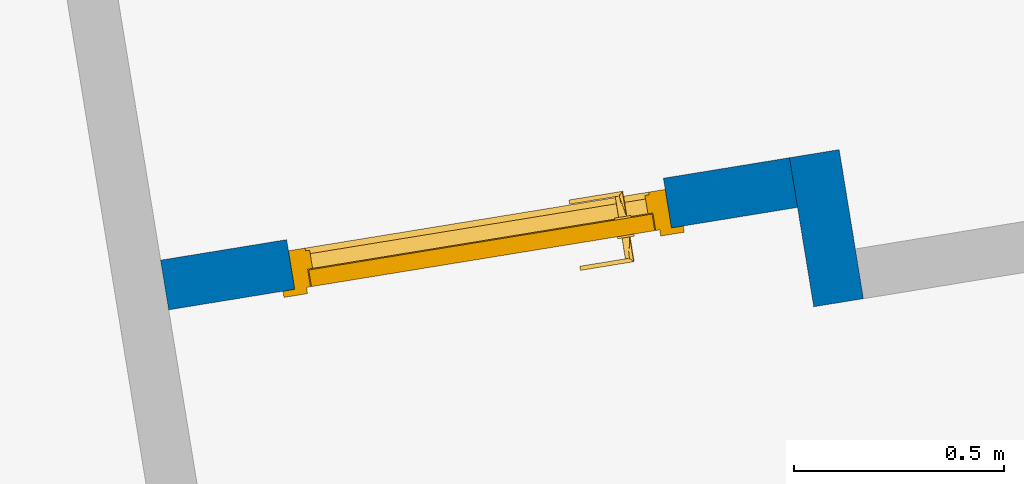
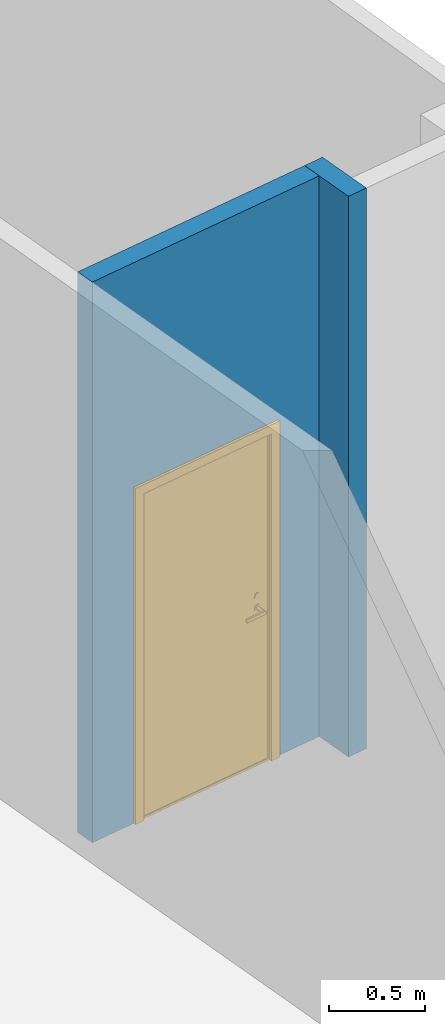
# One storey, part 12 of 18: 2 walls, 1 door, 1 opening.
"""IFC2X3 building model written with IfcOpenShell, lengths in millimetres."""

from ifc_helpers import new_model, entity, si_unit, converted_unit, derived_unit, direction, frame, frame_2d, origin, origin_with_axes, place, context, subcontext, project, spatial, polyline, rectangle, extrude, clip, bounded_halfspace, faceted_brep, source, transform, mapped, material, material_list, layer, layer_set, layer_usage, type_object, element, fill, save


model = new_model("IFC2X3")

# Units and contexts
model_context = context("Model", 3, precision=0.01, world=origin(), true_north=direction((6.12323399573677e-17, 1.0)))
plan_context = context("Plan", 3, precision=1e-05, world=origin_with_axes())
body_context = subcontext(model_context, "Body", "Model", "MODEL_VIEW")
ifc_project = project(units=[converted_unit("PLANEANGLEUNIT", "DEGREE", entity("IfcPositiveLengthMeasure", 0.0174532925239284), si_unit("PLANEANGLEUNIT", "RADIAN"), dimensions=[0, 0, 0, 0, 0, 0, 0]), si_unit("AREAUNIT", "SQUARE_METRE"), si_unit("LENGTHUNIT", "METRE", prefix="MILLI"), si_unit("MASSUNIT", "GRAM", prefix="KILO"), si_unit("POWERUNIT", "WATT"), si_unit("PRESSUREUNIT", "PASCAL", prefix="KILO"), si_unit("FORCEUNIT", "NEWTON", prefix="KILO"), si_unit("ELECTRICVOLTAGEUNIT", "VOLT"), si_unit("ELECTRICCURRENTUNIT", "AMPERE"), si_unit("THERMODYNAMICTEMPERATUREUNIT", "DEGREE_CELSIUS"), si_unit("TIMEUNIT", "SECOND"), si_unit("VOLUMEUNIT", "CUBIC_METRE"), derived_unit("LINEARVELOCITYUNIT", [(si_unit("LENGTHUNIT", "METRE"), 1), (si_unit("TIMEUNIT", "SECOND"), -1)]), derived_unit("VOLUMETRICFLOWRATEUNIT", [(si_unit("VOLUMEUNIT", "CUBIC_METRE"), 1), (si_unit("TIMEUNIT", "SECOND"), -1)]), derived_unit("THERMALTRANSMITTANCEUNIT", [(si_unit("POWERUNIT", "WATT"), 1), (si_unit("THERMODYNAMICTEMPERATUREUNIT", "KELVIN"), -1), (si_unit("AREAUNIT", "SQUARE_METRE"), -1)]), derived_unit("SOUNDPRESSUREUNIT", [(si_unit("PRESSUREUNIT", "PASCAL"), 1)])], contexts=[model_context, plan_context])

# Site, building, storey
site_placement = place(None, frame((-305029.896016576, -232111.759730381, 0.0), z_axis=(0.0, 0.0, 1.0), x_axis=(-0.160806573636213, 0.986985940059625, 0.0)))
site = spatial("IfcSite", under=ifc_project, at=site_placement, Name="Default", CompositionType="ELEMENT")
building_placement = place(site_placement, frame((0.0, 0.0, 0.0), z_axis=(0.0, 0.0, 1.0), x_axis=(1.0, -2.77555756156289e-17, 0.0)))
building = spatial("IfcBuilding", under=site, at=building_placement, Name="br001-a-200-1-0001", CompositionType="ELEMENT")
storey_placement = place(building_placement, frame((0.0, 0.0, 55500.0), z_axis=(0.0, 0.0, 1.0), x_axis=(1.0, -2.77555756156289e-17, 0.0)))
storey = spatial("IfcBuildingStorey", under=building, at=storey_placement, Name="H02-Nivå F-3,5 m", CompositionType="ELEMENT", Elevation=55500.0)

# Wall
ifc_material_1 = material(Name="_NSW Standard")
ifc_layer = layer(ifc_material_1, 120.0)
ifc_layer_set = layer_set([ifc_layer], Name="Basic Wall:A242 - Standard 120")
ifc_layer_usage_1 = layer_usage(ifc_layer_set, "AXIS2", "NEGATIVE", 60.0)
wall_type = type_object("IfcWallType", Name="Basic Wall:A242 - Standard 120", PredefinedType="STANDARD", material=ifc_layer_set)
wall_1_placement = place(storey_placement, frame((1178317.59858442, -733405.378367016, 0.0), z_axis=(0.0, 0.0, 1.0), x_axis=(1.0, -2.77555756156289e-17, 0.0)))
element("IfcWallStandardCase", 1, at=wall_1_placement, inside=storey, type_object=wall_type, material=ifc_layer_usage_1, Name="Basic Wall:A242 - Standard 120", ObjectType="Basic Wall:A242 - Standard 120", context=body_context, shape_type="Clipping", body=[
    clip(extrude(rectangle(XDim=360.000000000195, YDim=120.000000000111, at=frame_2d((180.000000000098, -2.41797692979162e-11), x_axis=(-1.0, 0.0))), origin(), (0.0, 0.0, 1.0), 3550.00000000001), bounded_halfspace(frame((0.0, -60.0, 3550.0), z_axis=(0.0, 0.0, -1.0), x_axis=(1.0, 0.0, 0.0)), True, frame((0.0, -60.0, 3550.0)), polyline([(0.0, 0.0), (120.0, 0.0), (360.0, 0.0), (360.0, 120.0), (240.0, 120.0), (0.0, 120.0), (0.0, 0.0)]))),
])

# Wall, opening, door
ifc_layer_usage_2 = layer_usage(ifc_layer_set, "AXIS2", "NEGATIVE", 60.0)
wall_2_placement = place(storey_placement, frame((1178617.59858442, -733345.378367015, 0.0), z_axis=(0.0, 0.0, 1.0), x_axis=(2.77555756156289e-17, 1.0, 0.0)))
wall_2 = element("IfcWallStandardCase", 2, at=wall_2_placement, inside=storey, type_object=wall_type, material=ifc_layer_usage_2, Name="Basic Wall:A242 - Standard 120", ObjectType="Basic Wall:A242 - Standard 120", context=body_context, shape_type="Clipping", body=[
    clip(extrude(rectangle(XDim=1518.99999999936, YDim=120.000000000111, at=frame_2d((759.49999999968, 1.64490643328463e-12), x_axis=(-1.0, 0.0))), origin(), (0.0, 0.0, 1.0), 3550.00000000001), bounded_halfspace(frame((0.0, -60.0, 3550.0), z_axis=(0.0, 0.0, -1.0), x_axis=(0.0, -1.0, 0.0)), True, frame((0.0, -60.0, 3550.0)), polyline([(0.0, 0.0), (1519.0, 0.0), (1519.0, 120.0), (0.0, 120.0), (0.0, 0.0)]))),
])
opening_placement = place(wall_2_placement, frame((304.499999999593, -60.0, 0.0), z_axis=(0.0, 0.0, 1.0), x_axis=(1.0, -2.77555756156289e-17, 0.0)))
opening = element("IfcOpeningElement", 3, at=opening_placement, cuts=wall_2, Name="NSW Innvendig slagdør, enkel:9M x 21M:1", ObjectType="Opening", context=body_context, shape_type="SweptSolid", body=[
    extrude(rectangle(XDim=2100.00000000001, YDim=910.0, at=frame_2d((1050.0, 455.000000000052), x_axis=(1.0, 0.0))), frame((0.0, 0.0, 0.0), z_axis=(0.0, 1.0, 0.0), x_axis=(0.0, 0.0, 1.0)), (0.0, 0.0, 1.0), 120.0),
])
ifc_material_2 = material(Name="<Unnamed>")
ifc_material_3 = material(Name="_NSW Dør - dørblad, hvit")
ifc_material_4 = material(Name="_NSW Dør - terskel, tre")
ifc_material_5 = material(Name="_NSW Dør - listverk, hvit")
ifc_material_list = material_list([ifc_material_2, ifc_material_3, ifc_material_4, ifc_material_5])
door_style = type_object("IfcDoorStyle", Name="NSW Innvendig slagdør, enkel:9M x 21M", ConstructionType="NOTDEFINED", OperationType="NOTDEFINED", ParameterTakesPrecedence=False, Sizeable=False, material=ifc_material_list)
shared_shape = source(origin(), body_context, "Body", "Brep", [
    faceted_brep([(-122.179491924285, 75.0, 1065.50000000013), (-120.181483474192, 75.0, 1070.32361909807), (-119.499999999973, 75.0, 1075.50000000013), (-120.181483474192, 75.0, 1080.67638090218), (-122.179491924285, 75.0, 1085.50000000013), (-125.357864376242, 75.0, 1089.64213562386), (-129.499999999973, 75.0, 1092.82050807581), (-134.323619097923, 75.0, 1094.81851652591), (-139.499999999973, 75.0, 1095.50000000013), (-144.676380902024, 75.0, 1094.81851652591), (-149.499999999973, 75.0, 1092.82050807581), (-153.642135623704, 75.0, 1089.64213562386), (-156.820508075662, 75.0, 1085.50000000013), (-158.818516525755, 75.0, 1080.67638090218), (-159.499999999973, 75.0, 1075.50000000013), (-158.818516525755, 75.0, 1070.32361909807), (-156.820508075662, 75.0, 1065.50000000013), (-153.642135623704, 75.0, 1061.35786437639), (-149.499999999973, 75.0, 1058.17949192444), (-144.676380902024, 75.0, 1056.18148347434), (-139.499999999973, 75.0, 1055.50000000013), (-134.323619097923, 75.0, 1056.18148347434), (-129.499999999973, 75.0, 1058.17949192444), (-125.357864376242, 75.0, 1061.35786437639), (-139.499999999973, 80.0, 1095.50000000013), (-134.323619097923, 80.0, 1094.81851652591), (-129.499999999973, 80.0, 1092.82050807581), (-125.357864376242, 80.0, 1089.64213562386), (-122.179491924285, 80.0, 1085.50000000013), (-120.181483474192, 80.0, 1080.67638090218), (-119.499999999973, 80.0, 1075.50000000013), (-120.181483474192, 80.0, 1070.32361909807), (-122.179491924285, 80.0, 1065.50000000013), (-125.357864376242, 80.0, 1061.35786437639), (-129.499999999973, 80.0, 1058.17949192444), (-134.323619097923, 80.0, 1056.18148347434), (-139.499999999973, 80.0, 1055.50000000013), (-144.676380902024, 80.0, 1056.18148347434), (-149.499999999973, 80.0, 1058.17949192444), (-153.642135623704, 80.0, 1061.35786437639), (-156.820508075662, 80.0, 1065.50000000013), (-158.818516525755, 80.0, 1070.32361909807), (-159.499999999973, 80.0, 1075.50000000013), (-158.818516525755, 80.0, 1080.67638090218), (-156.820508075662, 80.0, 1085.50000000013), (-153.642135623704, 80.0, 1089.64213562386), (-149.499999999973, 80.0, 1092.82050807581), (-144.676380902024, 80.0, 1094.81851652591)], [[[0, 1, 2, 3, 4, 5, 6, 7, 8, 9, 10, 11, 12, 13, 14, 15, 16, 17, 18, 19, 20, 21, 22, 23]], [[24, 25, 26, 27, 28, 29, 30, 31, 32, 33, 34, 35, 36, 37, 38, 39, 40, 41, 42, 43, 44, 45, 46, 47]], [[41, 15, 14, 42]], [[40, 16, 15, 41]], [[18, 17, 39, 38]], [[40, 39, 17, 16]], [[19, 18, 38, 37]], [[20, 19, 37, 36]], [[35, 21, 20, 36]], [[34, 22, 21, 35]], [[0, 23, 33, 32]], [[34, 33, 23, 22]], [[1, 0, 32, 31]], [[2, 1, 31, 30]], [[29, 3, 2, 30]], [[28, 4, 3, 29]], [[6, 5, 27, 26]], [[28, 27, 5, 4]], [[7, 6, 26, 25]], [[8, 7, 25, 24]], [[47, 9, 8, 24]], [[46, 10, 9, 47]], [[12, 11, 45, 44]], [[46, 45, 11, 10]], [[13, 12, 44, 43]], [[14, 13, 43, 42]]]),
    faceted_brep([(-139.499999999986, 15.0, 990.500000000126), (-19.499999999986, 15.0, 990.500000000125), (-19.499999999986, 15.0, 1010.50000000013), (-139.499999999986, 15.0, 1010.50000000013), (-142.088190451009, 15.0, 1010.15925826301), (-144.499999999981, 15.0, 1009.16025403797), (-146.571067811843, 15.0, 1007.57106781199), (-148.16025403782, 15.0, 1005.50000000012), (-149.159258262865, 15.0, 1003.08819045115), (-149.499999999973, 15.0, 1000.50000000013), (-149.159258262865, 15.0, 997.911809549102), (-148.16025403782, 15.0, 995.500000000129), (-146.571067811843, 15.0, 993.428932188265), (-144.499999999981, 15.0, 991.839745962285), (-142.088190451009, 15.0, 990.840741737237), (-136.911809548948, 25.0, 990.840741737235), (-134.499999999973, 25.0, 991.839745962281), (-132.428932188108, 25.0, 993.42893218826), (-130.839745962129, 25.0, 995.500000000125), (-129.840741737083, 25.0, 997.9118095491), (-129.499999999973, 25.0, 1000.50000000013), (-129.840741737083, 25.0, 1003.08819045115), (-130.839745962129, 25.0, 1005.50000000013), (-132.428932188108, 25.0, 1007.57106781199), (-134.499999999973, 25.0, 1009.16025403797), (-136.911809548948, 25.0, 1010.15925826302), (-139.499999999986, 25.0, 1010.50000000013), (-19.499999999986, 25.0, 1010.50000000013), (-19.499999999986, 25.0, 990.500000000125), (-139.499999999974, 25.0, 990.500000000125), (-139.499999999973, 75.0, 1010.50000000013), (-136.911809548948, 75.0, 1010.15925826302), (-134.499999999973, 75.0, 1009.16025403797), (-132.428932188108, 75.0, 1007.57106781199), (-130.839745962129, 75.0, 1005.50000000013), (-129.840741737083, 75.0, 1003.08819045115), (-129.499999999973, 75.0, 1000.50000000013), (-129.840741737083, 75.0, 997.9118095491), (-130.839745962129, 75.0, 995.500000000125), (-132.428932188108, 75.0, 993.42893218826), (-134.499999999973, 75.0, 991.839745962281), (-136.911809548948, 75.0, 990.840741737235), (-139.499999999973, 75.0, 990.500000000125), (-142.088190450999, 75.0, 990.840741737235), (-144.499999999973, 75.0, 991.839745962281), (-146.571067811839, 75.0, 993.42893218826), (-148.160254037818, 75.0, 995.500000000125), (-149.159258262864, 75.0, 997.9118095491), (-149.499999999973, 75.0, 1000.50000000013), (-149.159258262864, 75.0, 1003.08819045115), (-148.160254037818, 75.0, 1005.50000000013), (-146.571067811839, 75.0, 1007.57106781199), (-144.499999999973, 75.0, 1009.16025403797), (-142.088190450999, 75.0, 1010.15925826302)], [[[0, 1, 2, 3, 4, 5, 6, 7, 8, 9, 10, 11, 12, 13, 14]], [[15, 16, 17, 18, 19, 20, 21, 22, 23, 24, 25, 26, 27, 28, 29]], [[1, 0, 29, 28]], [[2, 1, 28, 27]], [[3, 2, 27, 26]], [[30, 31, 32, 33, 34, 35, 36, 37, 38, 39, 40, 41, 42, 43, 44, 45, 46, 47, 48, 49, 50, 51, 52, 53]], [[47, 10, 9, 48]], [[46, 11, 10, 47]], [[46, 45, 29]], [[29, 11, 46]], [[45, 44, 29]], [[29, 14, 13]], [[13, 12, 29]], [[29, 12, 11]], [[29, 0, 14]], [[42, 29, 43]], [[29, 44, 43]], [[41, 15, 29, 42]], [[40, 16, 15, 41]], [[18, 17, 39, 38]], [[38, 37, 19, 18]], [[40, 39, 17, 16]], [[36, 20, 19, 37]], [[35, 21, 20, 36]], [[34, 22, 21, 35]], [[24, 23, 33, 32]], [[34, 33, 23, 22]], [[25, 24, 32, 31]], [[25, 31, 30, 26]], [[53, 26, 30]], [[26, 4, 3]], [[52, 26, 53]], [[26, 51, 50]], [[50, 49, 8, 7]], [[52, 51, 26]], [[48, 9, 8, 49]], [[26, 5, 4]], [[5, 26, 6]], [[7, 6, 26]], [[7, 26, 50]]]),
    faceted_brep([(-129.499999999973, 75.0, 983.179491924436), (-125.357864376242, 75.0, 986.357864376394), (-122.179491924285, 75.0, 990.500000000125), (-120.181483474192, 75.0, 995.323619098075), (-119.499999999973, 75.0, 1000.50000000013), (-120.181483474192, 75.0, 1005.67638090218), (-122.179491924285, 75.0, 1010.50000000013), (-125.357864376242, 75.0, 1014.64213562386), (-129.499999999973, 75.0, 1017.82050807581), (-134.323619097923, 75.0, 1019.81851652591), (-139.499999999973, 75.0, 1020.50000000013), (-144.676380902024, 75.0, 1019.81851652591), (-149.499999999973, 75.0, 1017.82050807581), (-153.642135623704, 75.0, 1014.64213562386), (-156.820508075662, 75.0, 1010.50000000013), (-158.818516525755, 75.0, 1005.67638090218), (-159.499999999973, 75.0, 1000.50000000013), (-158.818516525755, 75.0, 995.323619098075), (-156.820508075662, 75.0, 990.500000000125), (-153.642135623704, 75.0, 986.357864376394), (-149.499999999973, 75.0, 983.179491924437), (-144.676380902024, 75.0, 981.181483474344), (-139.499999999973, 75.0, 980.500000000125), (-134.323619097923, 75.0, 981.181483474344), (-139.499999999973, 80.0, 1020.50000000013), (-134.323619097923, 80.0, 1019.81851652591), (-129.499999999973, 80.0, 1017.82050807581), (-125.357864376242, 80.0, 1014.64213562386), (-122.179491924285, 80.0, 1010.50000000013), (-120.181483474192, 80.0, 1005.67638090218), (-119.499999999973, 80.0, 1000.50000000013), (-120.181483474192, 80.0, 995.323619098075), (-122.179491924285, 80.0, 990.500000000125), (-125.357864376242, 80.0, 986.357864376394), (-129.499999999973, 80.0, 983.179491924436), (-134.323619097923, 80.0, 981.181483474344), (-139.499999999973, 80.0, 980.500000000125), (-144.676380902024, 80.0, 981.181483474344), (-149.499999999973, 80.0, 983.179491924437), (-153.642135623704, 80.0, 986.357864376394), (-156.820508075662, 80.0, 990.500000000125), (-158.818516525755, 80.0, 995.323619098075), (-159.499999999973, 80.0, 1000.50000000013), (-158.818516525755, 80.0, 1005.67638090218), (-156.820508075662, 80.0, 1010.50000000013), (-153.642135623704, 80.0, 1014.64213562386), (-149.499999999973, 80.0, 1017.82050807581), (-144.676380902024, 80.0, 1019.81851652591)], [[[0, 1, 2, 3, 4, 5, 6, 7, 8, 9, 10, 11, 12, 13, 14, 15, 16, 17, 18, 19, 20, 21, 22, 23]], [[24, 25, 26, 27, 28, 29, 30, 31, 32, 33, 34, 35, 36, 37, 38, 39, 40, 41, 42, 43, 44, 45, 46, 47]], [[41, 17, 16, 42]], [[40, 18, 17, 41]], [[20, 19, 39, 38]], [[40, 39, 19, 18]], [[21, 20, 38, 37]], [[22, 21, 37, 36]], [[35, 23, 22, 36]], [[34, 0, 23, 35]], [[2, 1, 33, 32]], [[34, 33, 1, 0]], [[3, 2, 32, 31]], [[4, 3, 31, 30]], [[29, 5, 4, 30]], [[28, 6, 5, 29]], [[8, 7, 27, 26]], [[28, 27, 7, 6]], [[9, 8, 26, 25]], [[10, 9, 25, 24]], [[47, 11, 10, 24]], [[46, 12, 11, 47]], [[14, 13, 45, 44]], [[46, 45, 13, 12]], [[15, 14, 44, 43]], [[16, 15, 43, 42]]]),
    faceted_brep([(-129.499999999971, 125.0, 1058.17949192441), (-134.323619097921, 125.0, 1056.18148347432), (-139.499999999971, 125.0, 1055.5000000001), (-144.676380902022, 125.0, 1056.18148347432), (-149.499999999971, 125.0, 1058.17949192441), (-153.642135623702, 125.0, 1061.35786437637), (-156.82050807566, 125.0, 1065.5000000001), (-158.818516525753, 125.0, 1070.32361909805), (-159.499999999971, 125.0, 1075.5000000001), (-158.818516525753, 125.0, 1080.67638090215), (-156.82050807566, 125.0, 1085.5000000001), (-153.642135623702, 125.0, 1089.64213562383), (-149.499999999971, 125.0, 1092.82050807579), (-144.676380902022, 125.0, 1094.81851652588), (-139.499999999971, 125.0, 1095.5000000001), (-134.323619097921, 125.0, 1094.81851652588), (-129.499999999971, 125.0, 1092.82050807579), (-125.35786437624, 125.0, 1089.64213562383), (-122.179491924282, 125.0, 1085.5000000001), (-120.18148347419, 125.0, 1080.67638090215), (-119.499999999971, 125.0, 1075.5000000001), (-120.18148347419, 125.0, 1070.32361909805), (-122.179491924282, 125.0, 1065.5000000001), (-125.35786437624, 125.0, 1061.35786437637), (-129.499999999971, 120.0, 1092.82050807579), (-134.323619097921, 120.0, 1094.81851652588), (-139.499999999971, 120.0, 1095.5000000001), (-144.676380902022, 120.0, 1094.81851652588), (-149.499999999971, 120.0, 1092.82050807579), (-153.642135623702, 120.0, 1089.64213562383), (-156.82050807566, 120.0, 1085.5000000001), (-158.818516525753, 120.0, 1080.67638090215), (-159.499999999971, 120.0, 1075.5000000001), (-158.818516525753, 120.0, 1070.32361909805), (-156.82050807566, 120.0, 1065.5000000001), (-153.642135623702, 120.0, 1061.35786437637), (-149.499999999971, 120.0, 1058.17949192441), (-144.676380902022, 120.0, 1056.18148347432), (-139.499999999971, 120.0, 1055.5000000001), (-134.323619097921, 120.0, 1056.18148347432), (-129.499999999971, 120.0, 1058.17949192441), (-125.35786437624, 120.0, 1061.35786437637), (-122.179491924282, 120.0, 1065.5000000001), (-120.18148347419, 120.0, 1070.32361909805), (-119.499999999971, 120.0, 1075.5000000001), (-120.18148347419, 120.0, 1080.67638090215), (-122.179491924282, 120.0, 1085.5000000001), (-125.35786437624, 120.0, 1089.64213562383)], [[[0, 1, 2, 3, 4, 5, 6, 7, 8, 9, 10, 11, 12, 13, 14, 15, 16, 17, 18, 19, 20, 21, 22, 23]], [[24, 25, 26, 27, 28, 29, 30, 31, 32, 33, 34, 35, 36, 37, 38, 39, 40, 41, 42, 43, 44, 45, 46, 47]], [[32, 8, 7, 33]], [[33, 7, 6, 34]], [[36, 35, 5, 4]], [[5, 35, 34, 6]], [[37, 36, 4, 3]], [[37, 3, 2, 38]], [[38, 2, 1, 39]], [[39, 1, 0, 40]], [[42, 41, 23, 22]], [[23, 41, 40, 0]], [[43, 42, 22, 21]], [[43, 21, 20, 44]], [[44, 20, 19, 45]], [[45, 19, 18, 46]], [[24, 47, 17, 16]], [[17, 47, 46, 18]], [[25, 24, 16, 15]], [[25, 15, 14, 26]], [[26, 14, 13, 27]], [[27, 13, 12, 28]], [[30, 29, 11, 10]], [[11, 29, 28, 12]], [[31, 30, 10, 9]], [[31, 9, 8, 32]]]),
    faceted_brep([(-146.571067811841, 185.0, 1007.57106781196), (-144.499999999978, 185.0, 1009.16025403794), (-142.088190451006, 185.0, 1010.15925826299), (-139.499999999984, 185.0, 1010.5000000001), (-19.4999999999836, 185.0, 1010.5000000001), (-19.4999999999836, 185.0, 990.500000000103), (-139.499999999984, 185.0, 990.500000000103), (-142.088190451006, 185.0, 990.840741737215), (-144.499999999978, 185.0, 991.839745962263), (-146.571067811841, 185.0, 993.428932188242), (-148.160254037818, 185.0, 995.500000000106), (-149.159258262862, 185.0, 997.91180954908), (-149.499999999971, 185.0, 1000.5000000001), (-149.159258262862, 185.0, 1003.08819045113), (-148.160254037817, 185.0, 1005.5000000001), (-19.4999999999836, 175.0, 990.500000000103), (-19.4999999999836, 175.0, 1010.5000000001), (-139.499999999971, 175.0, 1010.5000000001), (-136.911809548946, 175.0, 1010.15925826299), (-134.499999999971, 175.0, 1009.16025403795), (-132.428932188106, 175.0, 1007.57106781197), (-130.839745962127, 175.0, 1005.5000000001), (-129.84074173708, 175.0, 1003.08819045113), (-129.499999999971, 175.0, 1000.5000000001), (-129.84074173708, 175.0, 997.911809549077), (-130.839745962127, 175.0, 995.500000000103), (-132.428932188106, 175.0, 993.428932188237), (-134.499999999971, 175.0, 991.839745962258), (-136.911809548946, 175.0, 990.840741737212), (-139.499999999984, 175.0, 990.500000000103), (-134.499999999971, 125.0, 1009.16025403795), (-136.911809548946, 125.0, 1010.15925826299), (-139.499999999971, 125.0, 1010.5000000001), (-142.088190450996, 125.0, 1010.15925826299), (-144.499999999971, 125.0, 1009.16025403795), (-146.571067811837, 125.0, 1007.57106781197), (-148.160254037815, 125.0, 1005.5000000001), (-149.159258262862, 125.0, 1003.08819045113), (-149.499999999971, 125.0, 1000.5000000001), (-149.159258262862, 125.0, 997.911809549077), (-148.160254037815, 125.0, 995.500000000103), (-146.571067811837, 125.0, 993.428932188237), (-144.499999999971, 125.0, 991.839745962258), (-142.088190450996, 125.0, 990.840741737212), (-139.499999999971, 125.0, 990.500000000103), (-136.911809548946, 125.0, 990.840741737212), (-134.499999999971, 125.0, 991.839745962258), (-132.428932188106, 125.0, 993.428932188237), (-130.839745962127, 125.0, 995.500000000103), (-129.84074173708, 125.0, 997.911809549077), (-129.499999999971, 125.0, 1000.5000000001), (-129.84074173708, 125.0, 1003.08819045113), (-130.839745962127, 125.0, 1005.5000000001), (-132.428932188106, 125.0, 1007.57106781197)], [[[0, 1, 2, 3, 4, 5, 6, 7, 8, 9, 10, 11, 12, 13, 14]], [[15, 16, 17, 18, 19, 20, 21, 22, 23, 24, 25, 26, 27, 28, 29]], [[29, 6, 5, 15]], [[15, 5, 4, 16]], [[16, 4, 3, 17]], [[30, 31, 32, 33, 34, 35, 36, 37, 38, 39, 40, 41, 42, 43, 44, 45, 46, 47, 48, 49, 50, 51, 52, 53]], [[38, 12, 11, 39]], [[39, 11, 10, 40]], [[29, 41, 40]], [[40, 10, 29]], [[29, 42, 41]], [[8, 7, 29]], [[29, 9, 8]], [[10, 9, 29]], [[7, 6, 29]], [[43, 29, 44]], [[43, 42, 29]], [[44, 29, 28, 45]], [[45, 28, 27, 46]], [[48, 47, 26, 25]], [[24, 49, 48, 25]], [[26, 47, 46, 27]], [[49, 24, 23, 50]], [[50, 23, 22, 51]], [[51, 22, 21, 52]], [[30, 53, 20, 19]], [[20, 53, 52, 21]], [[31, 30, 19, 18]], [[17, 32, 31, 18]], [[32, 17, 33]], [[3, 2, 17]], [[33, 17, 34]], [[36, 35, 17]], [[13, 37, 36, 14]], [[17, 35, 34]], [[37, 13, 12, 38]], [[2, 1, 17]], [[0, 17, 1]], [[17, 0, 14]], [[36, 17, 14]]]),
    faceted_brep([(-134.323619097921, 125.0, 981.181483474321), (-139.499999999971, 125.0, 980.500000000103), (-144.676380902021, 125.0, 981.181483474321), (-149.499999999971, 125.0, 983.179491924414), (-153.642135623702, 125.0, 986.357864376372), (-156.82050807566, 125.0, 990.500000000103), (-158.818516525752, 125.0, 995.323619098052), (-159.499999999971, 125.0, 1000.5000000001), (-158.818516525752, 125.0, 1005.67638090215), (-156.82050807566, 125.0, 1010.5000000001), (-153.642135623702, 125.0, 1014.64213562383), (-149.499999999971, 125.0, 1017.82050807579), (-144.676380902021, 125.0, 1019.81851652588), (-139.499999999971, 125.0, 1020.5000000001), (-134.323619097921, 125.0, 1019.81851652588), (-129.499999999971, 125.0, 1017.82050807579), (-125.35786437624, 125.0, 1014.64213562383), (-122.179491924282, 125.0, 1010.5000000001), (-120.18148347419, 125.0, 1005.67638090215), (-119.499999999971, 125.0, 1000.5000000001), (-120.18148347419, 125.0, 995.323619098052), (-122.179491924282, 125.0, 990.500000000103), (-125.35786437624, 125.0, 986.357864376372), (-129.499999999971, 125.0, 983.179491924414), (-129.499999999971, 120.0, 1017.82050807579), (-134.323619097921, 120.0, 1019.81851652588), (-139.499999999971, 120.0, 1020.5000000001), (-144.676380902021, 120.0, 1019.81851652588), (-149.499999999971, 120.0, 1017.82050807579), (-153.642135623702, 120.0, 1014.64213562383), (-156.82050807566, 120.0, 1010.5000000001), (-158.818516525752, 120.0, 1005.67638090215), (-159.499999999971, 120.0, 1000.5000000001), (-158.818516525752, 120.0, 995.323619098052), (-156.82050807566, 120.0, 990.500000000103), (-153.642135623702, 120.0, 986.357864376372), (-149.499999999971, 120.0, 983.179491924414), (-144.676380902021, 120.0, 981.181483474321), (-139.499999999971, 120.0, 980.500000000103), (-134.323619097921, 120.0, 981.181483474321), (-129.499999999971, 120.0, 983.179491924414), (-125.35786437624, 120.0, 986.357864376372), (-122.179491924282, 120.0, 990.500000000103), (-120.18148347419, 120.0, 995.323619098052), (-119.499999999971, 120.0, 1000.5000000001), (-120.18148347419, 120.0, 1005.67638090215), (-122.179491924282, 120.0, 1010.5000000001), (-125.35786437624, 120.0, 1014.64213562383)], [[[0, 1, 2, 3, 4, 5, 6, 7, 8, 9, 10, 11, 12, 13, 14, 15, 16, 17, 18, 19, 20, 21, 22, 23]], [[24, 25, 26, 27, 28, 29, 30, 31, 32, 33, 34, 35, 36, 37, 38, 39, 40, 41, 42, 43, 44, 45, 46, 47]], [[32, 7, 6, 33]], [[33, 6, 5, 34]], [[36, 35, 4, 3]], [[4, 35, 34, 5]], [[37, 36, 3, 2]], [[37, 2, 1, 38]], [[38, 1, 0, 39]], [[39, 0, 23, 40]], [[42, 41, 22, 21]], [[22, 41, 40, 23]], [[43, 42, 21, 20]], [[43, 20, 19, 44]], [[44, 19, 18, 45]], [[45, 18, 17, 46]], [[24, 47, 16, 15]], [[16, 47, 46, 17]], [[25, 24, 15, 14]], [[25, 14, 13, 26]], [[26, 13, 12, 27]], [[27, 12, 11, 28]], [[30, 29, 10, 9]], [[10, 29, 28, 11]], [[31, 30, 9, 8]], [[31, 8, 7, 32]]]),
    faceted_brep([(619.500000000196, 80.0, 2059.0), (-209.499999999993, 80.0, 2059.0), (-209.499999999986, 80.0, 18.0), (619.500000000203, 80.0, 18.0), (619.500000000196, 120.0, 2059.0), (619.500000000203, 120.0, 18.0), (-209.499999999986, 120.0, 18.0), (-209.499999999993, 120.0, 2059.0)], [[[0, 1, 2, 3]], [[4, 5, 6, 7]], [[3, 5, 4, 0]], [[2, 6, 5, 3]], [[1, 7, 6, 2]], [[0, 4, 7, 1]]]),
    faceted_brep([(622.0, 120.0, 0.0), (660.0, 120.0, 0.0), (660.0, 27.0, 0.0), (620.0, 27.0, 0.0), (620.0, 33.5000000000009, 0.0), (610.0, 33.5000000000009, 0.0), (610.0, 77.5, 0.0), (622.0, 77.5, 0.0), (622.0, 77.5, 2062.0), (622.0, 120.0, 2062.0), (610.0, 77.5, 2050.0), (-200.0, 77.5, 2050.0), (-200.0, 77.5, 0.0), (-212.0, 77.5, 0.0), (-212.0, 77.5, 2062.0), (610.0, 33.5000000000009, 2050.0), (620.0, 33.5000000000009, 2060.0), (-210.0, 33.5000000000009, 2060.0), (-210.0, 33.5000000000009, 0.0), (-200.0, 33.5000000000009, 0.0), (-200.0, 33.5000000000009, 2050.0), (620.0, 27.0, 2060.0), (660.0, 27.0, 2100.0), (-250.0, 27.0, 2100.0), (-250.0, 27.0, 0.0), (-210.0, 27.0, 0.0), (-210.0, 27.0, 2060.0), (660.0, 120.0, 2100.0), (-212.0, 120.0, 2062.0), (-212.0, 120.0, 0.0), (-250.0, 120.0, 0.0), (-250.0, 120.0, 2100.0)], [[[0, 1, 2, 3, 4, 5, 6, 7]], [[7, 8, 9, 0]], [[6, 10, 11, 12, 13, 14, 8, 7]], [[5, 15, 10, 6]], [[4, 16, 17, 18, 19, 20, 15, 5]], [[3, 21, 16, 4]], [[2, 22, 23, 24, 25, 26, 21, 3]], [[1, 27, 22, 2]], [[0, 9, 28, 29, 30, 31, 27, 1]], [[8, 14, 28, 9]], [[15, 20, 11, 10]], [[21, 26, 17, 16]], [[27, 31, 23, 22]], [[29, 13, 12, 19, 18, 25, 24, 30]], [[14, 13, 29, 28]], [[20, 19, 12, 11]], [[26, 25, 18, 17]], [[31, 30, 24, 23]]]),
    faceted_brep([(-212.0, 120.0, 0.0), (-212.0, 120.0, 14.0), (622.0, 120.0, 14.0), (622.0, 120.0, 0.0), (-212.0, 77.5, 14.0), (-200.0, 77.4999999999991, 14.0), (610.0, 77.5, 14.0), (622.0, 77.5000000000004, 14.0), (-200.0, 77.4999999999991, 22.0), (610.0, 77.5000000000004, 22.0), (-200.0, 42.0, 22.0), (610.0, 42.0, 22.0), (-200.0, 33.5000000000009, 17.4666666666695), (-210.0, 33.5000000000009, 17.4666666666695), (-210.0, 27.0, 14.0), (620.0, 27.0, 14.0), (620.0, 33.5000000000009, 17.4666666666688), (610.0, 33.5000000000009, 17.4666666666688), (-210.0, 27.0, 0.0), (620.0, 27.0, 0.0), (622.0, 77.5, 0.0), (610.0, 77.5, 0.0), (610.0, 33.5000000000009, 0.0), (620.0, 33.5000000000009, 0.0), (-210.0, 33.5000000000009, 0.0), (-200.0, 33.5000000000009, 0.0), (-200.0, 77.5, 0.0), (-212.0, 77.5, 0.0)], [[[0, 1, 2, 3]], [[1, 4, 5, 6, 7, 2]], [[5, 8, 9, 6]], [[8, 10, 11, 9]], [[10, 12, 13, 14, 15, 16, 17, 11]], [[14, 18, 19, 15]], [[3, 20, 21, 22, 23, 19, 18, 24, 25, 26, 27, 0]], [[16, 15, 19, 23]], [[23, 22, 17, 16]], [[6, 9, 11, 17, 22, 21]], [[21, 20, 7, 6]], [[20, 3, 2, 7]], [[4, 1, 0, 27]], [[27, 26, 5, 4]], [[26, 25, 12, 10, 8, 5]], [[25, 24, 13, 12]], [[24, 18, 14, 13]]]),
    faceted_brep([(631.500000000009, 120.0, 0.0), (631.500000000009, 135.0, 0.0), (688.500000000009, 135.0, 0.0), (688.500000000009, 120.0, 0.0), (688.500000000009, 120.0, 2128.50000000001), (-278.499999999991, 120.0, 2128.50000000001), (-278.499999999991, 120.0, 0.0), (-221.499999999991, 120.0, 0.0), (-221.499999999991, 120.0, 2071.50000000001), (631.500000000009, 120.0, 2071.50000000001), (688.500000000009, 135.0, 2128.50000000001), (631.500000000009, 135.0, 2071.50000000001), (-221.499999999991, 135.0, 2071.50000000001), (-221.499999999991, 135.0, 0.0), (-278.499999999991, 135.0, 0.0), (-278.499999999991, 135.0, 2128.50000000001)], [[[0, 1, 2, 3]], [[3, 4, 5, 6, 7, 8, 9, 0]], [[2, 10, 4, 3]], [[1, 11, 12, 13, 14, 15, 10, 2]], [[0, 9, 11, 1]], [[10, 15, 5, 4]], [[9, 8, 12, 11]], [[7, 6, 14, 13]], [[15, 14, 6, 5]], [[8, 7, 13, 12]]]),
])
door_placement = place(opening_placement, frame((250.0, 0.0, 0.0), z_axis=(0.0, 0.0, 1.0), x_axis=(1.0, -2.77555756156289e-17, 0.0)))
door = element("IfcDoor", 4, at=door_placement, inside=storey, type_object=door_style, material=ifc_material_list, Name="NSW Innvendig slagdør, enkel:9M x 21M", ObjectType="NSW Innvendig slagdør, enkel:9M x 21M", OverallHeight=2100.00000000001, OverallWidth=910.000000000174, context=body_context, shape_type="MappedRepresentation", body=[
    mapped(shared_shape, transform((0.0, 0.0, 0.0), scale=1.0)),
])
fill(opening, door)

save(model, "model.ifc")
